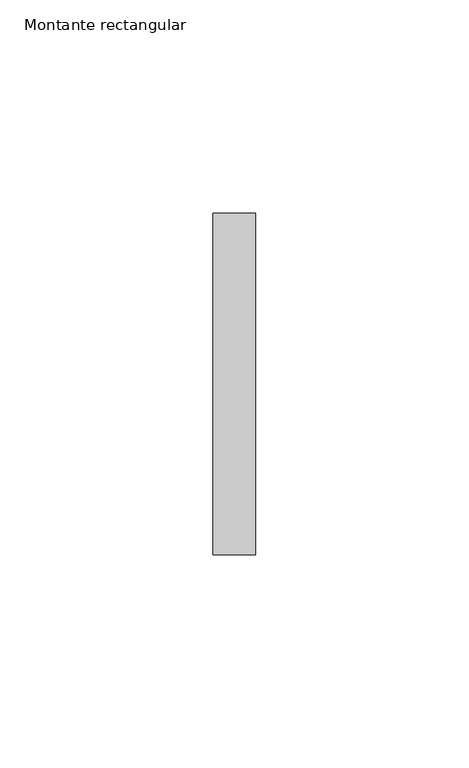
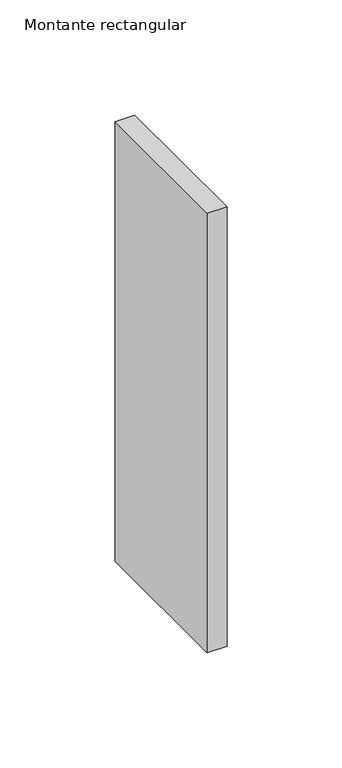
"""IFC4 building model written with IfcOpenShell, lengths in millimetres: member geometry, Montante rectangular : Junta de paves."""

from ifc_helpers import new_model, si_unit, frame, origin, place, context, project, spatial, polyline, outline, extrude, source, transform, mapped, element, save


def montante_rectangular_3748f694(model_context):
    return source(origin(), model_context, "Body", "SweptSolid", [
        extrude(outline(polyline([(5.0, 40.0), (5.0, -40.0), (-5.0, -40.0), (-5.0, 40.0), (5.0, 40.0)])), frame((0.0, 0.0, -233.3333333), z_axis=(0.0, 0.0, 1.0), x_axis=(1.0, 0.0, 0.0)), (0.0, 0.0, 1.0), 233.3333333),
    ])


if __name__ == "__main__":
    model = new_model("IFC4")
    model_context = context("Model", 3, world=origin())
    ifc_project = project(units=[si_unit("LENGTHUNIT", "METRE", prefix="MILLI")], contexts=[model_context])
    site = spatial("IfcSite", under=ifc_project)
    building = spatial("IfcBuilding", under=site)
    placement = place(None, origin())
    montante_rectangular_shape = montante_rectangular_3748f694(model_context)
    element("IfcMember", 1, ObjectType="Montante rectangular : Junta de paves", at=placement, inside=building, context=model_context, shape_type="MappedRepresentation", body=[
        mapped(montante_rectangular_shape, transform((0.0, 0.0, 0.0), x_axis=(1.0, 0.0, 0.0), y_axis=(0.0, 1.0, 0.0), z_axis=(0.0, 0.0, 1.0))),
    ])
    save(model, "model.ifc")
